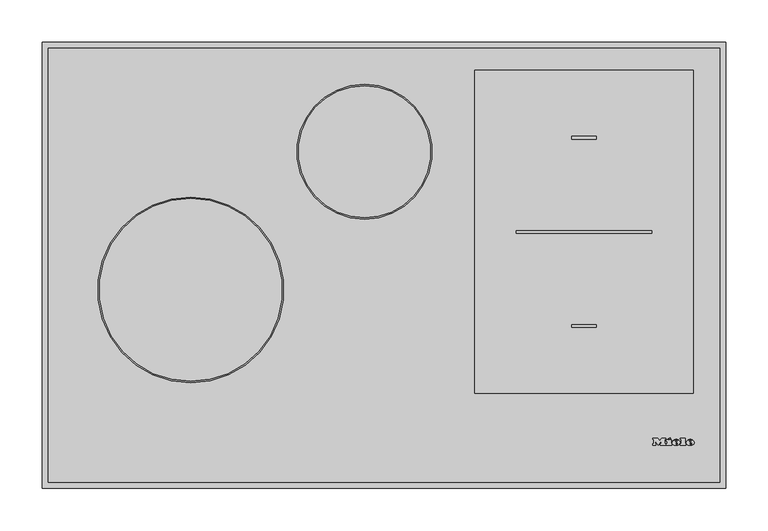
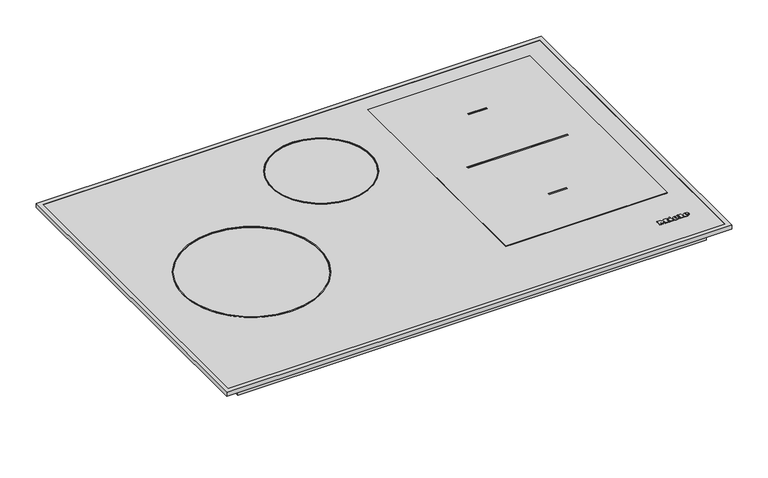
"""IFC4 building model written with IfcOpenShell, lengths in millimetres: proxy geometry, 11753830_BNE_KM7679FR : 26767900_BNE_11753830_KM7679FR."""

from ifc_helpers import new_model, si_unit, point, frame, frame_2d, origin, place, context, project, spatial, polyline, circle_curve, ellipse_curve, trimmed, segment, composite_curve, outline, extrude, faceted_brep, source, transform, mapped, element, save
from ifc_brep_helpers import plane_surface, cylinder_surface, revolved_surface, extruded_surface, advanced_brep


def specialty_equipment_a710ed4d(model_context):
    return source(origin(), model_context, "Body", "SolidModel", [
        advanced_brep(
        [(360.648, 52.8948833, 6.9922537), (360.648, 53.7028828, 6.9931551), (366.0, 53.7028828, 6.9931551), (356.688, 53.7028828, 6.9931551), (358.888, 50.9988845, 6.9901386), (365.864, 52.8948833, 6.9922537), (363.448, 52.8948833, 6.9922537), (361.544, 51.9988838, 6.9912542), (360.648, 54.7268821, 6.9942974), (360.648, 55.5988816, 6.9952701), (362.016, 55.5988816, 6.9952701), (362.016, 54.7268821, 6.9942974), (360.648, 52.8959988, 5.9922543), (361.544, 51.9999994, 5.9912548), (363.448, 52.8959988, 5.9922543), (365.864, 52.8959988, 5.9922543), (358.888, 51.0, 5.9901393), (356.688, 53.7039983, 5.9931557), (366.0, 53.7039983, 5.9931557), (360.648, 53.7039983, 5.9931557), (360.648, 54.7279977, 5.994298), (362.016, 54.7279977, 5.994298), (362.016, 55.5999971, 5.9952707), (360.648, 55.5999971, 5.9952707)],
        [
            (0, 1),
            (1, 2),
            (2, 3, ellipse_curve(frame((361.344, 53.7028828, 6.9931551), z_axis=(0.0, -0.0011155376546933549, 0.9999993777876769), x_axis=(-1.0, 0.0, 0.0)), 4.656, 3.848)),
            (3, 4, circle_curve(frame((359.7840436, 53.9748826, 6.9934585), z_axis=(0.0, -0.0011155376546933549, 0.9999993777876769), x_axis=(0.0, -0.9999993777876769, -0.0011155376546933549)), 3.1079688)),
            (4, 5, circle_curve(frame((361.2507936, 56.0868813, 6.9958145), z_axis=(0.0, -0.0011155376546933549, 0.9999993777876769), x_axis=(0.0, -0.9999993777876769, -0.0011155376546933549)), 5.6098607)),
            (5, 6),
            (6, 7, circle_curve(frame((361.9350588, 53.6388828, 6.9930837), z_axis=(0.0, 0.0011155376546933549, -0.9999993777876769), x_axis=(0.0, -0.9999993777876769, -0.0011155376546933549)), 1.6859795)),
            (7, 0, circle_curve(frame((361.544, 52.8948833, 6.9922537), z_axis=(0.0, 0.0011155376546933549, -0.9999993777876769), x_axis=(0.0, -0.9999993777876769, -0.0011155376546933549)), 0.896)),
            (8, 9),
            (9, 10, circle_curve(frame((361.332, 55.5988816, 6.9952701), z_axis=(0.0, 0.0011155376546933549, -0.9999993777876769), x_axis=(0.0, -0.9999993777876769, -0.0011155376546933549)), 0.684)),
            (10, 11),
            (11, 8),
            (12, 13, circle_curve(frame((361.544, 52.8959988, 5.9922543), z_axis=(0.0, -0.0011155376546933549, 0.9999993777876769), x_axis=(0.0, -0.9999993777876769, -0.0011155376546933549)), 0.896)),
            (13, 14, circle_curve(frame((361.9350588, 53.6399984, 5.9930843), z_axis=(0.0, -0.0011155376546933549, 0.9999993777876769), x_axis=(0.0, -0.9999993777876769, -0.0011155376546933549)), 1.6859795)),
            (14, 15),
            (15, 16, circle_curve(frame((361.2507936, 56.0879968, 5.9958151), z_axis=(0.0, 0.0011155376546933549, -0.9999993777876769), x_axis=(0.0, -0.9999993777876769, -0.0011155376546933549)), 5.6098607)),
            (16, 17, circle_curve(frame((359.7840436, 53.9759981, 5.9934591), z_axis=(0.0, 0.0011155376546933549, -0.9999993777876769), x_axis=(0.0, -0.9999993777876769, -0.0011155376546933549)), 3.1079688)),
            (17, 18, ellipse_curve(frame((361.344, 53.7039983, 5.9931557), z_axis=(0.0, 0.0011155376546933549, -0.9999993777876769), x_axis=(-1.0, 0.0, 0.0)), 4.656, 3.848)),
            (18, 19),
            (19, 12),
            (20, 21),
            (21, 22),
            (22, 23, circle_curve(frame((361.332, 55.5999971, 5.9952707), z_axis=(0.0, -0.0011155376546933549, 0.9999993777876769), x_axis=(0.0, -0.9999993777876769, -0.0011155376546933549)), 0.684)),
            (23, 20),
            (0, 12),
            (19, 1),
            (18, 2),
            (5, 15),
            (14, 6),
            (17, 3),
            (13, 7),
            (16, 4),
            (8, 20),
            (23, 9),
            (22, 10),
            (21, 11),
        ],
        [
            plane_surface(frame((360.648, 53.7028828, 6.9931551), z_axis=(0.0, -0.0011155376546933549, 0.9999993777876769), x_axis=(0.0, 0.9999993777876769, 0.0011155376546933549))),
            plane_surface(frame((360.648, 53.7039983, 5.9931557), z_axis=(0.0, 0.0011155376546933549, -0.9999993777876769), x_axis=(0.0, -0.9999993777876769, -0.0011155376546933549))),
            plane_surface(frame((360.648, 52.8948833, 6.9922537), z_axis=(1.0000000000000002, 0.0, 0.0), x_axis=(0.0, 0.001115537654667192, -0.999999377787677))),
            plane_surface(frame((360.648, 53.7028828, 6.9931551), z_axis=(0.0, -0.999999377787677, -0.001115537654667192), x_axis=(0.0, 0.001115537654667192, -0.999999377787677))),
            plane_surface(frame((365.864, 52.8948833, 6.9922537), z_axis=(0.0, 0.999999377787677, 0.001115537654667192), x_axis=(0.0, 0.001115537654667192, -0.999999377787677))),
            extruded_surface(trimmed(ellipse_curve(frame((361.344, 53.7051139, 4.9931563), z_axis=(0.0, -0.0011155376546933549, 0.9999993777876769), x_axis=(-1.0, 0.0, 0.0)), 4.656, 3.848), [point((366.0, 53.7051139, 4.9931563))], [point((356.688, 53.7051139, 4.9931563))], True, "CARTESIAN"), (0.0, -0.001115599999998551, 0.9999994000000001), 1.00000002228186),
            revolved_surface(polyline([(361.9350588, 51.954019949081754, 5.991203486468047), (361.9350588, 51.95290441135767, 6.99120292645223)]), (361.9350588, 53.6399984, 5.9930843), (0.0, 0.0011155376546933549, -0.9999993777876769)),
            revolved_surface(polyline([(361.544, 51.99999935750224, 5.9912547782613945), (361.544, 51.99888381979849, 6.991254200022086)]), (361.544, 52.8959988, 5.9922543), (0.0, 0.0011155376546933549, -0.9999993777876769)),
            cylinder_surface(frame((359.7840436, 53.9759981, 5.9934591), z_axis=(0.0, -0.0011155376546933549, 0.9999993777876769), x_axis=(0.0, -0.9999993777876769, -0.0011155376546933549)), 3.1079688),
            cylinder_surface(frame((361.2507936, 56.0879968, 5.9958151), z_axis=(0.0, -0.0011155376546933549, 0.9999993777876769), x_axis=(0.0, -0.9999993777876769, -0.0011155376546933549)), 5.6098607),
            plane_surface(frame((360.648, 54.7268821, 6.9942974), z_axis=(1.0000000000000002, 0.0, 0.0), x_axis=(0.0, 0.001115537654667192, -0.999999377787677))),
            revolved_surface(polyline([(361.332, 54.915997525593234, 5.99450767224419), (361.332, 54.91488198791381, 6.994507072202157)]), (361.332, 55.5999971, 5.9952707), (0.0, 0.0011155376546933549, -0.9999993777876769)),
            plane_surface(frame((362.016, 55.5988816, 6.9952701), z_axis=(-1.0000000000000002, 0.0, 0.0), x_axis=(0.0, 0.001115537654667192, -0.999999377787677))),
            plane_surface(frame((362.016, 54.7268821, 6.9942974), z_axis=(0.0, 0.999999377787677, 0.001115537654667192), x_axis=(0.0, 0.001115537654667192, -0.999999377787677))),
        ],
        [
            (0, [[1, 2, 3, 4, 5, 6, 7, 8], [9, 10, 11, 12]]),
            (1, [[13, 14, 15, 16, 17, 18, 19, 20], [21, 22, 23, 24]]),
            (2, [[-1, 25, -20, 26]]),
            (3, [[-2, -26, -19, 27]]),
            (4, [[-6, 28, -15, 29]]),
            (5, [[-3, -27, -18, 30]]),
            (6, [[-7, -29, -14, 31]]),
            (7, [[-8, -31, -13, -25]]),
            (8, [[-4, -30, -17, 32]]),
            (9, [[-5, -32, -16, -28]]),
            (10, [[-9, 33, -24, 34]]),
            (11, [[-10, -34, -23, 35]]),
            (12, [[-11, -35, -22, 36]]),
            (13, [[-12, -36, -21, -33]]),
        ],
    ),
        advanced_brep(
        [(343.952, 52.8948833, 6.9922537), (343.952, 53.7028828, 6.9931551), (349.304, 53.7028828, 6.9931551), (339.992, 53.7028828, 6.9931551), (342.192, 50.9988845, 6.9901386), (349.168, 52.8948833, 6.9922537), (346.752, 52.8948833, 6.9922537), (344.848, 51.9988838, 6.9912542), (343.952, 54.7268821, 6.9942974), (343.952, 55.5988816, 6.9952701), (345.32, 55.5988816, 6.9952701), (345.32, 54.7268821, 6.9942974), (343.952, 52.8959988, 5.9922543), (344.848, 51.9999994, 5.9912548), (346.752, 52.8959988, 5.9922543), (349.168, 52.8959988, 5.9922543), (342.192, 51.0, 5.9901393), (339.992, 53.7039983, 5.9931557), (349.304, 53.7039983, 5.9931557), (343.952, 53.7039983, 5.9931557), (343.952, 54.7279977, 5.994298), (345.32, 54.7279977, 5.994298), (345.32, 55.5999971, 5.9952707), (343.952, 55.5999971, 5.9952707)],
        [
            (0, 1),
            (1, 2),
            (2, 3, ellipse_curve(frame((344.648, 53.7028828, 6.9931551), z_axis=(0.0, -0.0011155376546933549, 0.9999993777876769), x_axis=(-1.0, 0.0, 0.0)), 4.656, 3.848)),
            (3, 4, circle_curve(frame((343.0880436, 53.9748826, 6.9934585), z_axis=(0.0, -0.0011155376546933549, 0.9999993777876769), x_axis=(0.0, -0.9999993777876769, -0.0011155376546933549)), 3.1079688)),
            (4, 5, circle_curve(frame((344.5547936, 56.0868813, 6.9958145), z_axis=(0.0, -0.0011155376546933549, 0.9999993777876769), x_axis=(0.0, -0.9999993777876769, -0.0011155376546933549)), 5.6098607)),
            (5, 6),
            (6, 7, circle_curve(frame((345.2390588, 53.6388828, 6.9930837), z_axis=(0.0, 0.0011155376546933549, -0.9999993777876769), x_axis=(0.0, -0.9999993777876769, -0.0011155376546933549)), 1.6859795)),
            (7, 0, circle_curve(frame((344.848, 52.8948833, 6.9922537), z_axis=(0.0, 0.0011155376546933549, -0.9999993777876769), x_axis=(0.0, -0.9999993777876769, -0.0011155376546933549)), 0.896)),
            (8, 9),
            (9, 10, circle_curve(frame((344.636, 55.5988816, 6.9952701), z_axis=(0.0, 0.0011155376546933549, -0.9999993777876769), x_axis=(0.0, -0.9999993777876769, -0.0011155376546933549)), 0.684)),
            (10, 11),
            (11, 8),
            (12, 13, circle_curve(frame((344.848, 52.8959988, 5.9922543), z_axis=(0.0, -0.0011155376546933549, 0.9999993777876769), x_axis=(0.0, -0.9999993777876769, -0.0011155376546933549)), 0.896)),
            (13, 14, circle_curve(frame((345.2390588, 53.6399984, 5.9930843), z_axis=(0.0, -0.0011155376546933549, 0.9999993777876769), x_axis=(0.0, -0.9999993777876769, -0.0011155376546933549)), 1.6859795)),
            (14, 15),
            (15, 16, circle_curve(frame((344.5547936, 56.0879968, 5.9958151), z_axis=(0.0, 0.0011155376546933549, -0.9999993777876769), x_axis=(0.0, -0.9999993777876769, -0.0011155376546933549)), 5.6098607)),
            (16, 17, circle_curve(frame((343.0880436, 53.9759981, 5.9934591), z_axis=(0.0, 0.0011155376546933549, -0.9999993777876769), x_axis=(0.0, -0.9999993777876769, -0.0011155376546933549)), 3.1079688)),
            (17, 18, ellipse_curve(frame((344.648, 53.7039983, 5.9931557), z_axis=(0.0, 0.0011155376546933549, -0.9999993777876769), x_axis=(-1.0, 0.0, 0.0)), 4.656, 3.848)),
            (18, 19),
            (19, 12),
            (20, 21),
            (21, 22),
            (22, 23, circle_curve(frame((344.636, 55.5999971, 5.9952707), z_axis=(0.0, -0.0011155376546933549, 0.9999993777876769), x_axis=(0.0, -0.9999993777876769, -0.0011155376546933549)), 0.684)),
            (23, 20),
            (0, 12),
            (19, 1),
            (18, 2),
            (5, 15),
            (14, 6),
            (17, 3),
            (13, 7),
            (16, 4),
            (8, 20),
            (23, 9),
            (22, 10),
            (21, 11),
        ],
        [
            plane_surface(frame((343.952, 53.7028828, 6.9931551), z_axis=(0.0, -0.0011155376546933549, 0.9999993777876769), x_axis=(0.0, 0.9999993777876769, 0.0011155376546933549))),
            plane_surface(frame((343.952, 53.7039983, 5.9931557), z_axis=(0.0, 0.0011155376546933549, -0.9999993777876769), x_axis=(0.0, -0.9999993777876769, -0.0011155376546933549))),
            plane_surface(frame((343.952, 52.8948833, 6.9922537), z_axis=(1.0000000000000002, 0.0, 0.0), x_axis=(0.0, 0.001115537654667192, -0.999999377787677))),
            plane_surface(frame((343.952, 53.7028828, 6.9931551), z_axis=(0.0, -0.999999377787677, -0.001115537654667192), x_axis=(0.0, 0.001115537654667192, -0.999999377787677))),
            plane_surface(frame((349.168, 52.8948833, 6.9922537), z_axis=(0.0, 0.999999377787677, 0.001115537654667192), x_axis=(0.0, 0.001115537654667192, -0.999999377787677))),
            extruded_surface(trimmed(ellipse_curve(frame((344.648, 53.7051139, 4.9931563), z_axis=(0.0, -0.0011155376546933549, 0.9999993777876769), x_axis=(-1.0, 0.0, 0.0)), 4.656, 3.848), [point((349.304, 53.7051139, 4.9931563))], [point((339.992, 53.7051139, 4.9931563))], True, "CARTESIAN"), (0.0, -0.001115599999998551, 0.9999994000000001), 1.00000002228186),
            revolved_surface(polyline([(345.2390588, 51.954019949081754, 5.991203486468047), (345.2390588, 51.95290441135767, 6.99120292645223)]), (345.2390588, 53.6399984, 5.9930843), (0.0, 0.0011155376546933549, -0.9999993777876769)),
            revolved_surface(polyline([(344.848, 51.99999935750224, 5.9912547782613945), (344.848, 51.99888381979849, 6.991254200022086)]), (344.848, 52.8959988, 5.9922543), (0.0, 0.0011155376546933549, -0.9999993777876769)),
            cylinder_surface(frame((343.0880436, 53.9759981, 5.9934591), z_axis=(0.0, -0.0011155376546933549, 0.9999993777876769), x_axis=(0.0, -0.9999993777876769, -0.0011155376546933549)), 3.1079688),
            cylinder_surface(frame((344.5547936, 56.0879968, 5.9958151), z_axis=(0.0, -0.0011155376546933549, 0.9999993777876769), x_axis=(0.0, -0.9999993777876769, -0.0011155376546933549)), 5.6098607),
            plane_surface(frame((343.952, 54.7268821, 6.9942974), z_axis=(1.0000000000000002, 0.0, 0.0), x_axis=(0.0, 0.001115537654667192, -0.999999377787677))),
            revolved_surface(polyline([(344.636, 54.915997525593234, 5.99450767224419), (344.636, 54.91488198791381, 6.994507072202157)]), (344.636, 55.5999971, 5.9952707), (0.0, 0.0011155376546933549, -0.9999993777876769)),
            plane_surface(frame((345.32, 55.5988816, 6.9952701), z_axis=(-1.0000000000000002, 0.0, 0.0), x_axis=(0.0, 0.001115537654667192, -0.999999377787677))),
            plane_surface(frame((345.32, 54.7268821, 6.9942974), z_axis=(0.0, 0.999999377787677, 0.001115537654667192), x_axis=(0.0, 0.001115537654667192, -0.999999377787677))),
        ],
        [
            (0, [[1, 2, 3, 4, 5, 6, 7, 8], [9, 10, 11, 12]]),
            (1, [[13, 14, 15, 16, 17, 18, 19, 20], [21, 22, 23, 24]]),
            (2, [[-1, 25, -20, 26]]),
            (3, [[-2, -26, -19, 27]]),
            (4, [[-6, 28, -15, 29]]),
            (5, [[-3, -27, -18, 30]]),
            (6, [[-7, -29, -14, 31]]),
            (7, [[-8, -31, -13, -25]]),
            (8, [[-4, -30, -17, 32]]),
            (9, [[-5, -32, -16, -28]]),
            (10, [[-9, 33, -24, 34]]),
            (11, [[-10, -34, -23, 35]]),
            (12, [[-11, -35, -22, 36]]),
            (13, [[-12, -36, -21, -33]]),
        ],
    ),
        extrude(outline(polyline([(0.0, 0.0), (-0.0109086, -2.9993294), (-1.4390415, -2.9920868), (-1.4315307, 0.0), (0.0, 0.0)])), frame((335.208, 58.5279953, 5.998537), z_axis=(0.0, -0.001115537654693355, 0.999999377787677), x_axis=(-0.4247202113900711, 0.9053240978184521, 0.0010099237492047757)), (0.0, 0.0, 1.0), 1.0),
        extrude(outline(polyline([(-0.4933908, 2.4141097), (-2.7800844, -2.4601583), (-7.0459741, -0.4588767), (-7.4401145, -1.299018), (-8.6568709, -0.728194), (-5.9760369, 4.9862153), (-4.7592805, 4.4153913), (-5.1636142, 3.5535222), (-2.1941493, 2.1604399), (-1.7898157, 3.022309), (-0.4933908, 2.4141097)])), frame((335.208, 58.5279953, 5.998537), z_axis=(0.0, -0.001115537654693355, 0.999999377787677), x_axis=(-0.4247202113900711, 0.9053240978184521, 0.0010099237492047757)), (0.0, 0.0, 1.0), 1.0),
        extrude(outline(polyline([(0.0, 0.0), (0.0, -1.304), (-5.504, -1.304), (-5.504, 5.3519999), (-6.488, 5.3519999), (-6.488, 6.696), (0.0, 6.696), (0.0, 5.3519999), (-0.96, 5.3519999), (-0.96, 0.0), (0.0, 0.0)])), frame((349.752, 57.6959958, 5.9976089), z_axis=(0.0, -0.0011155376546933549, 0.9999993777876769), x_axis=(-1.0, 0.0, 0.0)), (0.0, 0.0, 1.0), 1.0),
        extrude(outline(polyline([(0.0, 0.0), (0.0, -1.304), (-5.576, -1.304), (-7.92, 1.696), (-10.256, -1.304), (-15.128, -1.304), (-15.128, 0.0), (-14.112, 0.0), (-14.112, 5.3519999), (-15.128, 5.3519999), (-15.128, 6.696), (-8.744, 6.696), (-8.744, 5.3519999), (-9.728, 5.3519999), (-9.728, 1.8807777), (-6.136, 6.696), (-2.56, 1.9488752), (-2.56, 5.3519999), (-3.52, 5.3519999), (-3.52, 6.696), (0.0, 6.696), (0.0, 5.3519999), (-0.968, 5.3519999), (-0.968, 0.0), (0.0, 0.0)])), frame((317.288, 57.6959958, 5.9976089), z_axis=(0.0, -0.0011155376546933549, 0.9999993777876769), x_axis=(-1.0, 0.0, 0.0)), (0.0, 0.0, 1.0), 1.0),
        extrude(outline(polyline([(182.3772603, 428.0), (175.0, 428.0), (175.0, 429.2557039), (181.1215564, 429.2557039), (181.1215564, 432.5519266), (175.470889, 432.5519266), (175.470889, 433.8076304), (181.1215564, 433.8076304), (181.1215564, 436.7899271), (175.156963, 436.7899271), (175.156963, 438.045631), (182.3772603, 438.045631), (182.3772603, 428.0)])), frame((0.0, 0.0, -76.0), z_axis=(0.0, 0.0, 1.0), x_axis=(1.0, 0.0, 0.0)), (0.0, 0.0, 1.0), 1.0),
        extrude(outline(polyline([(173.1164442, 428.0), (166.8379248, 428.0), (166.8379248, 429.2557039), (171.8607403, 429.2557039), (171.8607403, 438.045631), (173.1164442, 438.045631), (173.1164442, 428.0)])), frame((0.0, 0.0, -76.0), z_axis=(0.0, 0.0, 1.0), x_axis=(1.0, 0.0, 0.0)), (0.0, 0.0, 1.0), 1.0),
        extrude(outline(polyline([(402.0, 524.0), (402.0, 1.0), (-402.0, 1.0), (-402.0, 524.0), (402.0, 524.0)])), frame((0.0, 0.0, 2.0), z_axis=(0.0, 0.0, 1.0), x_axis=(1.0, 0.0, 0.0)), (0.0, 0.0, 1.0), 4.0),
        extrude(outline(polyline([(373.5, 506.5), (373.5, 19.5), (-373.5, 19.5), (-373.5, 506.5), (373.5, 506.5)])), frame((0.0, 0.0, -20.0), z_axis=(0.0, 0.0, 1.0), x_axis=(1.0, 0.0, 0.0)), (0.0, 0.0, 1.0), 22.0),
        faceted_brep([(396.0, 519.0, 7.0), (396.0, 519.0, 6.0), (396.0, 7.0, 6.0), (396.0, 7.0, 7.0), (403.0, 526.0, 0.0), (403.0, 526.0, 7.0), (403.0, 0.0, 7.0), (403.0, 0.0, 0.0), (402.0, 525.0, 6.0), (402.0, 525.0, 0.0), (402.0, 1.0, 0.0), (402.0, 1.0, 6.0), (-396.0, 7.0, 6.0), (-396.0, 7.0, 7.0), (-403.0, 0.0, 7.0), (-403.0, 0.0, 0.0), (-402.0, 1.0, 0.0), (-402.0, 1.0, 6.0), (-396.0, 519.0, 6.0), (-396.0, 519.0, 7.0), (-403.0, 526.0, 7.0), (-403.0, 526.0, 0.0), (-402.0, 525.0, 0.0), (-402.0, 525.0, 6.0)], [[[0, 1, 2, 3]], [[4, 5, 6, 7]], [[8, 9, 10, 11]], [[3, 2, 12, 13]], [[7, 6, 14, 15]], [[11, 10, 16, 17]], [[13, 12, 18, 19]], [[15, 14, 20, 21]], [[17, 16, 22, 23]], [[19, 18, 1, 0]], [[5, 20, 14, 6], [3, 13, 19, 0]], [[21, 20, 5, 4]], [[7, 15, 21, 4], [9, 22, 16, 10]], [[23, 22, 9, 8]], [[11, 17, 23, 8], [1, 18, 12, 2]]]),
        extrude(outline(composite_curve([segment(trimmed(circle_curve(frame_2d((-23.0, 397.0)), 79.5), [point((-23.0, 476.5))], [point((-23.0, 317.5))], False, "CARTESIAN"), True, "CONTINUOUS"), segment(trimmed(circle_curve(frame_2d((-23.0, 397.0)), 79.5), [point((-23.0, 317.5))], [point((-23.0, 476.5))], False, "CARTESIAN"), True, "CONTINUOUS")], self_intersect=False), holes=[composite_curve([segment(trimmed(circle_curve(frame_2d((-23.0, 397.0)), 78.0), [point((-23.0, 475.0))], [point((-23.0, 319.0))], True, "CARTESIAN"), True, "CONTINUOUS"), segment(trimmed(circle_curve(frame_2d((-23.0, 397.0)), 78.0), [point((-23.0, 319.0))], [point((-23.0, 475.0))], True, "CARTESIAN"), True, "CONTINUOUS")], self_intersect=False)]), frame((0.0, 0.0, 6.0), z_axis=(0.0, 0.0, 1.0), x_axis=(1.0, 0.0, 0.0)), (0.0, 0.0, 1.0), 1.0),
        extrude(outline(composite_curve([segment(trimmed(circle_curve(frame_2d((-228.0, 234.0)), 109.5), [point((-228.0, 343.5))], [point((-228.0, 124.5))], False, "CARTESIAN"), True, "CONTINUOUS"), segment(trimmed(circle_curve(frame_2d((-228.0, 234.0)), 109.5), [point((-228.0, 124.5))], [point((-228.0, 343.5))], False, "CARTESIAN"), True, "CONTINUOUS")], self_intersect=False), holes=[composite_curve([segment(trimmed(circle_curve(frame_2d((-228.0, 234.0)), 108.0), [point((-228.0, 342.0))], [point((-228.0, 126.0))], True, "CARTESIAN"), True, "CONTINUOUS"), segment(trimmed(circle_curve(frame_2d((-228.0, 234.0)), 108.0), [point((-228.0, 126.0))], [point((-228.0, 342.0))], True, "CARTESIAN"), True, "CONTINUOUS")], self_intersect=False)]), frame((0.0, 0.0, 6.0), z_axis=(0.0, 0.0, 1.0), x_axis=(1.0, 0.0, 0.0)), (0.0, 0.0, 1.0), 1.0),
        extrude(outline(polyline([(365.0, 493.0), (365.0, 112.0), (107.0, 112.0), (107.0, 493.0), (365.0, 493.0)]), holes=[polyline([(250.5, 415.0), (221.5, 415.0), (221.5, 412.0), (250.5, 412.0), (250.5, 415.0)]), polyline([(316.0, 301.0), (316.0, 304.0), (156.0, 304.0), (156.0, 301.0), (316.0, 301.0)]), polyline([(250.5, 193.0), (221.5, 193.0), (221.5, 190.0), (250.5, 190.0), (250.5, 193.0)])]), frame((0.0, 0.0, 6.0), z_axis=(0.0, 0.0, 1.0), x_axis=(1.0, 0.0, 0.0)), (0.0, 0.0, 1.0), 1.0),
        extrude(outline(composite_curve([segment(trimmed(circle_curve(frame_2d((175.0, 433.0)), 7.5), [point((175.0, 440.5))], [point((175.0, 425.5))], False, "CARTESIAN"), True, "CONTINUOUS"), segment(trimmed(circle_curve(frame_2d((175.0, 433.0)), 7.5), [point((175.0, 425.5))], [point((175.0, 440.5))], False, "CARTESIAN"), True, "CONTINUOUS")], self_intersect=False)), frame((0.0, 0.0, -75.0), z_axis=(0.0, 0.0, 1.0), x_axis=(1.0, 0.0, 0.0)), (0.0, 0.0, 1.0), 30.0),
        extrude(outline(polyline([(253.0, 467.0), (253.0, 96.0), (-253.0, 96.0), (-253.0, 467.0), (253.0, 467.0)])), frame((0.0, 0.0, -45.0), z_axis=(0.0, 0.0, 1.0), x_axis=(1.0, 0.0, 0.0)), (0.0, 0.0, 1.0), 25.0),
    ])


if __name__ == "__main__":
    model = new_model("IFC4")
    model_context = context("Model", 3, world=origin())
    ifc_project = project(units=[si_unit("LENGTHUNIT", "METRE", prefix="MILLI")], contexts=[model_context])
    site = spatial("IfcSite", under=ifc_project)
    building = spatial("IfcBuilding", under=site)
    placement = place(None, origin())
    specialty_equipment_shape = specialty_equipment_a710ed4d(model_context)
    element("IfcBuildingElementProxy", 1, Name="11753830_BNE_KM7679FR : 26767900_BNE_11753830_KM7679FR", ObjectType="11753830_BNE_KM7679FR : 26767900_BNE_11753830_KM7679FR", at=placement, inside=building, context=model_context, shape_type="MappedRepresentation", body=[
        mapped(specialty_equipment_shape, transform((0.0, 0.0, 0.0), x_axis=(1.0, 0.0, 0.0), y_axis=(0.0, 1.0, 0.0), z_axis=(0.0, 0.0, 1.0))),
    ])
    save(model, "model.ifc")
